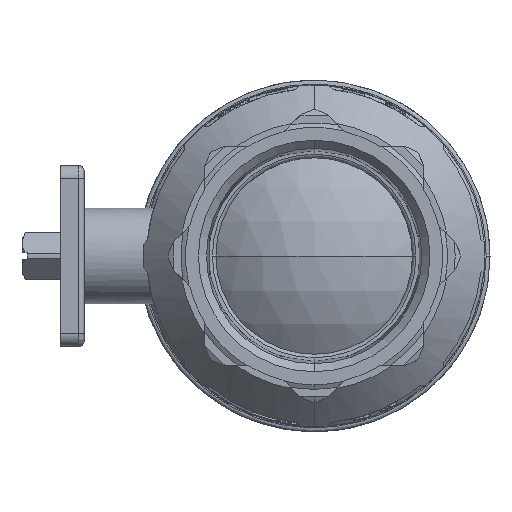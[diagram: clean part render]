
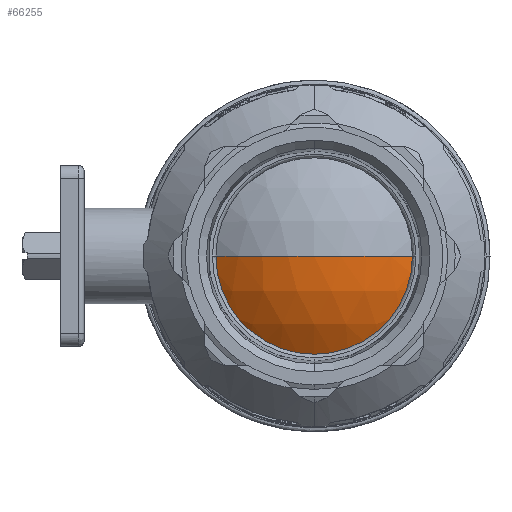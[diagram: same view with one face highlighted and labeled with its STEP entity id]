
A CAD part, left-side view. The second image highlights one B-rep face of the part: STEP entity #66255.
In plain terms, the highlighted spherical face has radius 62.598 mm.
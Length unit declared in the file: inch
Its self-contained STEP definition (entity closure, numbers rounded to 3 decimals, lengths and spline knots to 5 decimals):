
#2944 = AXIS2_PLACEMENT_3D ( 'NONE', #19637, #55911, #24828 ) ;
#4116 = CARTESIAN_POINT ( 'NONE',  ( 0., 0., 0. ) ) ;
#4341 = DIRECTION ( 'NONE',  ( 1., 0., 0. ) ) ;
#7277 = CIRCLE ( 'NONE', #2944, 1.49606 ) ;
#10423 = CARTESIAN_POINT ( 'NONE',  ( -1.95844, 1.49606, 0. ) ) ;
#13023 = EDGE_CURVE ( 'NONE', #47789, #60437, #15739, .T. ) ;
#13329 = FACE_OUTER_BOUND ( 'NONE', #24591, .T. ) ;
#15739 = CIRCLE ( 'NONE', #64986, 1.49606 ) ;
#19637 = CARTESIAN_POINT ( 'NONE',  ( -1.95844, 0., 0. ) ) ;
#21503 = CARTESIAN_POINT ( 'NONE',  ( -1.95844, 0., 0. ) ) ;
#24591 = EDGE_LOOP ( 'NONE', ( #49934, #40987, #62909 ) ) ;
#24828 = DIRECTION ( 'NONE',  ( 0., 0., -1. ) ) ;
#25147 = CARTESIAN_POINT ( 'NONE',  ( -1.95844, 0., -1.49606 ) ) ;
#26348 = DIRECTION ( 'NONE',  ( 0., 0., -1. ) ) ;
#26702 = DIRECTION ( 'NONE',  ( 0., 0., -1. ) ) ;
#33645 = EDGE_CURVE ( 'NONE', #47789, #47421, #62228, .T. ) ;
#35367 = DIRECTION ( 'NONE',  ( 0., 0., -1. ) ) ;
#35692 = AXIS2_PLACEMENT_3D ( 'NONE', #4116, #35367, #4341 ) ;
#39655 = EDGE_CURVE ( 'NONE', #60437, #47421, #7277, .T. ) ;
#40648 = AXIS2_PLACEMENT_3D ( 'NONE', #57410, #26348, #62573 ) ;
#40885 = SPHERICAL_SURFACE ( 'NONE', #35692, 2.46449 ) ;
#40987 = ORIENTED_EDGE ( 'NONE', *, *, #33645, .T. ) ;
#47421 = VERTEX_POINT ( 'NONE', #10423 ) ;
#47789 = VERTEX_POINT ( 'NONE', #56948 ) ;
#49934 = ORIENTED_EDGE ( 'NONE', *, *, #13023, .F. ) ;
#55911 = DIRECTION ( 'NONE',  ( 1., 0., 0. ) ) ;
#56948 = CARTESIAN_POINT ( 'NONE',  ( -1.95844, -1.49606, 0. ) ) ;
#57410 = CARTESIAN_POINT ( 'NONE',  ( 0., 0., 0. ) ) ;
#57748 = DIRECTION ( 'NONE',  ( 1., 0., 0. ) ) ;
#60437 = VERTEX_POINT ( 'NONE', #25147 ) ;
#62228 = CIRCLE ( 'NONE', #40648, 2.46449 ) ;
#62573 = DIRECTION ( 'NONE',  ( -1., 0., 0. ) ) ;
#62909 = ORIENTED_EDGE ( 'NONE', *, *, #39655, .F. ) ;
#64986 = AXIS2_PLACEMENT_3D ( 'NONE', #21503, #57748, #26702 ) ;
#66255 = ADVANCED_FACE ( 'NONE', ( #13329 ), #40885, .T. ) ;
